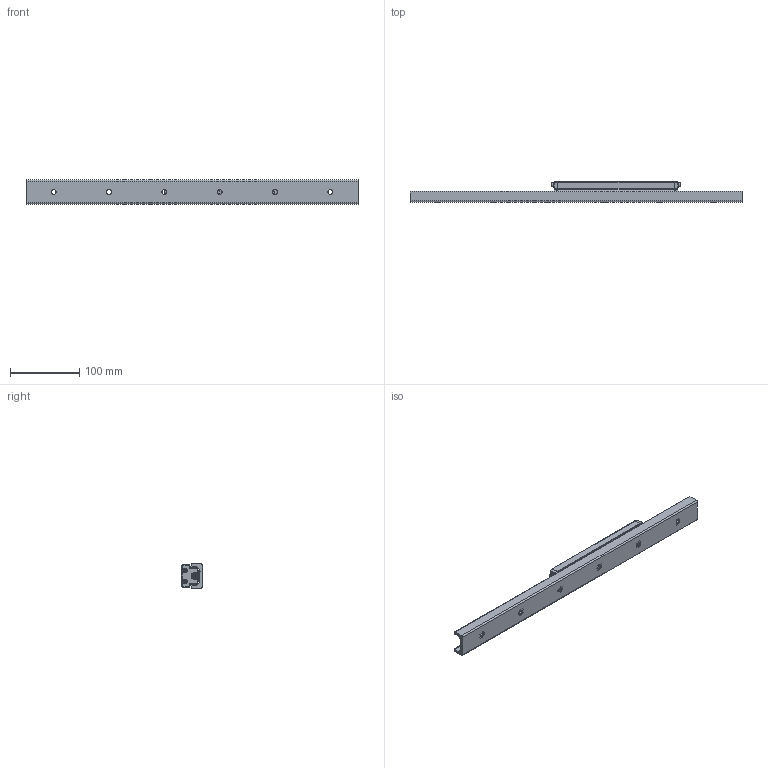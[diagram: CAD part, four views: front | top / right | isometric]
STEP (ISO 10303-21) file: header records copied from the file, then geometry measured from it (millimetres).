
FILE_DESCRIPTION(/* description */ ('STEP AP214'),/* implementation_level */ '2;1');
FILE_NAME(/* name */ 'AWG35RC1SS+480L(2000)',/* time_stamp */ '2024-10-17T13:44:49+02:00',/* author */ ('License CC BY-ND 4.0'),/* organization */ ('CADENAS'),/* preprocessor_version */ 'ST-DEVELOPER v19.3',/* originating_system */ 'PARTsolutions',/* authorisation */ ' ');
FILE_SCHEMA (('AUTOMOTIVE_DESIGN {1 0 10303 214 3 1 1}'));
Length unit declared in the file: millimetre
Products named in the file (5): AWG35RC1SS+480L(2000); AWG35RC1SS+480L A-M6F 200 0_rail; AWG35RC1SS+480L_carriage; AWG35RC_SSL_seal; AWG-RA_A-M6F_grease_nipple
Assembly tree (6 placements, depth 2):
  AWG35RC1SS+480L(2000)
    AWG35RC1SS+480L A-M6F 200 0_rail
    AWG35RC1SS+480L_carriage
    AWG35RC_SSL_seal  x2
    AWG-RA_A-M6F_grease_nipple  x2
Bounding box: 480 x 30 x 35 mm (x, y, z)
Volume: 213569.5 mm3; surface area: 105986.9 mm2
Topology: 6 solids, 16 shells, 1040 faces, 2543 edges, 1646 vertices
Faces by surface type: plane 548, cylinder 328, cone 111, torus 45, sphere 8
Full cylindrical faces by diameter (mm): 2 x8, 2.46 x4, 3 x4, 3.2 x4, 3.7 x2, 4.08 x5, 4.13 x5, 4.917 x4, 5 x5, 5.19 x2, 5.3 x5, 5.5 x9, 6 x2, 6.5 x2, 7 x10, 8 x5, 8.5 x5, 8.9 x2, 9 x7, 10 x5, 11 x11, 13 x8, 14.7 x10, 22.5 x10
Entity records: 25306 total; most frequent: CARTESIAN_POINT 4581, DIRECTION 4423, ORIENTED_EDGE 3878, EDGE_CURVE 1939, AXIS2_PLACEMENT_3D 1701, VERTEX_POINT 1389, FACE_BOUND 1252, EDGE_LOOP 1241
